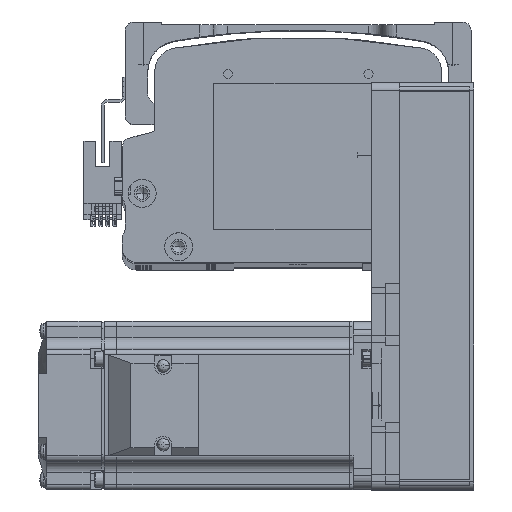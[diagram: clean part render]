
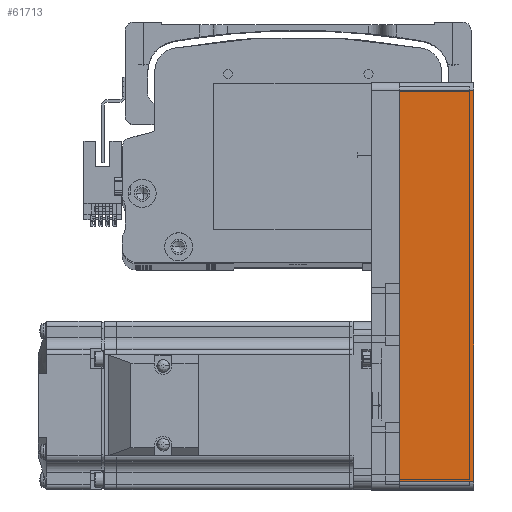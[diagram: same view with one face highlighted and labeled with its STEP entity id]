
A CAD part, top view. The second image highlights one B-rep face of the part: STEP entity #61713.
In plain terms, the highlighted planar face has unit normal (0, 0, 1) as drawn and (0, -1, 0) by its records, which use the part's own axes.
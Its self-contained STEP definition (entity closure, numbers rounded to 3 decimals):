
#1010 = VERTEX_POINT ( 'NONE', #13959 ) ;
#1103 = DIRECTION ( 'NONE',  ( 0., 0., 1. ) ) ;
#3218 = VERTEX_POINT ( 'NONE', #48341 ) ;
#7843 = VECTOR ( 'NONE', #31258, 1000. ) ;
#11209 = CARTESIAN_POINT ( 'NONE',  ( -69.5, -30., 26.5 ) ) ;
#11227 = DIRECTION ( 'NONE',  ( 1., 0., 0. ) ) ;
#11895 = DIRECTION ( 'NONE',  ( 0., 1., 0. ) ) ;
#13959 = CARTESIAN_POINT ( 'NONE',  ( 69.5, -30., 26.5 ) ) ;
#14723 = EDGE_CURVE ( 'NONE', #23289, #76528, #46411, .T. ) ;
#16316 = EDGE_CURVE ( 'NONE', #3218, #23289, #60737, .T. ) ;
#20704 = ORIENTED_EDGE ( 'NONE', *, *, #14723, .T. ) ;
#20876 = CARTESIAN_POINT ( 'NONE',  ( 69.5, -30., 26.5 ) ) ;
#22378 = FACE_OUTER_BOUND ( 'NONE', #40838, .T. ) ;
#23289 = VERTEX_POINT ( 'NONE', #49794 ) ;
#24966 = PLANE ( 'NONE',  #68607 ) ;
#27805 = LINE ( 'NONE', #20876, #78684 ) ;
#31258 = DIRECTION ( 'NONE',  ( 0., 0., -1. ) ) ;
#31702 = ORIENTED_EDGE ( 'NONE', *, *, #62864, .F. ) ;
#40838 = EDGE_LOOP ( 'NONE', ( #20704, #47167, #31702, #56969 ) ) ;
#40997 = CARTESIAN_POINT ( 'NONE',  ( 72.5, -30., 26.5 ) ) ;
#44842 = EDGE_CURVE ( 'NONE', #76528, #1010, #27805, .T. ) ;
#46411 = LINE ( 'NONE', #77375, #61966 ) ;
#47167 = ORIENTED_EDGE ( 'NONE', *, *, #44842, .T. ) ;
#48341 = CARTESIAN_POINT ( 'NONE',  ( -69.5, -30., 26.5 ) ) ;
#49794 = CARTESIAN_POINT ( 'NONE',  ( -69.5, -30., 0. ) ) ;
#51639 = CARTESIAN_POINT ( 'NONE',  ( 72.5, -30., 26.5 ) ) ;
#56969 = ORIENTED_EDGE ( 'NONE', *, *, #16316, .T. ) ;
#57239 = CARTESIAN_POINT ( 'NONE',  ( 69.5, -30., 0. ) ) ;
#58324 = DIRECTION ( 'NONE',  ( -1., 0., 0. ) ) ;
#60737 = LINE ( 'NONE', #11209, #7843 ) ;
#61713 = ADVANCED_FACE ( 'NONE', ( #22378 ), #24966, .F. ) ;
#61966 = VECTOR ( 'NONE', #11227, 1000. ) ;
#62864 = EDGE_CURVE ( 'NONE', #3218, #1010, #66831, .T. ) ;
#66831 = LINE ( 'NONE', #40997, #84501 ) ;
#68607 = AXIS2_PLACEMENT_3D ( 'NONE', #51639, #11895, #58324 ) ;
#76528 = VERTEX_POINT ( 'NONE', #57239 ) ;
#77375 = CARTESIAN_POINT ( 'NONE',  ( 72.5, -30., 0. ) ) ;
#78684 = VECTOR ( 'NONE', #1103, 1000. ) ;
#80681 = DIRECTION ( 'NONE',  ( 1., 0., 0. ) ) ;
#84501 = VECTOR ( 'NONE', #80681, 1000. ) ;
